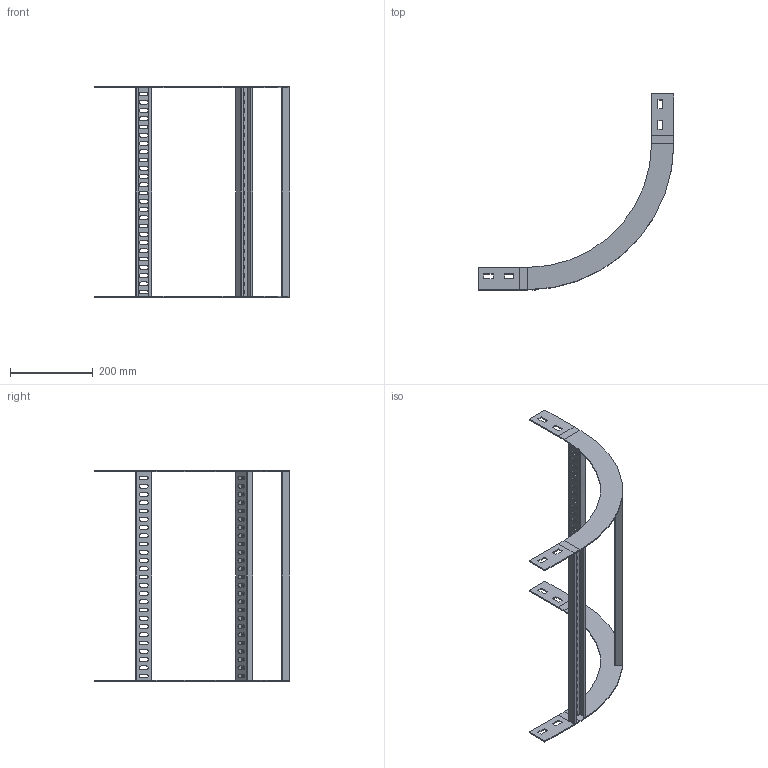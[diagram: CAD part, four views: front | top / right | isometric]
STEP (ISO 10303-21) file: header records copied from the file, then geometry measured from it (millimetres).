
FILE_DESCRIPTION(/* description */ ('','CAx-IF Rec.Pracs.---Representation and Presentation of Product Manufacturing Information (PMI)---4.0---2014-10-13'),/* implementation_level */ '2;1');
FILE_NAME(/* name */ 'Eurostrut_EIR60-500-90-300_Inside Riser for Cable Ladder ECL.step',/* time_stamp */ '2026-09-03T10:04:04+02:00',/* author */ (''),/* organization */ (''),/* preprocessor_version */ 'ST-DEVELOPER v20.1',/* originating_system */ 'Autodesk Revit 2027 27.2.0.39',/* authorisation */ '');
FILE_SCHEMA (('AP242_MANAGED_MODEL_BASED_3D_ENGINEERING_MIM_LF { 1 0 10303 442 2 1 4 }'));
Length unit declared in the file: millimetre
Products named in the file (8): TopLevelAssembly; Sweep; Extrusion; Extrusion_1; Extrusion_2; Extrusion_3; Eurostrut_Cable Ladder_Rung_V2 Vertical_Array EIR_Slotted; Eurostrut_Cable Ladder_Accessory End_54-94-142
Assembly tree (10 placements, depth 2):
  TopLevelAssembly
    Sweep
    Extrusion
    Extrusion_1
    Extrusion_2
    Extrusion_3
    Eurostrut_Cable Ladder_Rung_V2 Vertical_Array EIR_Slotted
    Eurostrut_Cable Ladder_Accessory End_54-94-142  x4
Bounding box: 474 x 474 x 511 mm (x, y, z)
Volume: 416855.5 mm3; surface area: 422596.6 mm2
Topology: 13 solids, 13 shells, 446 faces, 1260 edges, 840 vertices
Faces by surface type: plane 280, bspline 150, cylinder 16
Entity records: 17902 total; most frequent: CARTESIAN_POINT 6992, ORIENTED_EDGE 2304, DIRECTION 2028, EDGE_CURVE 1152, LINE 820, VECTOR 820, VERTEX_POINT 768, AXIS2_PLACEMENT_3D 604
